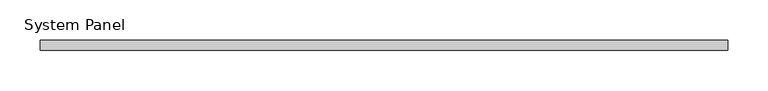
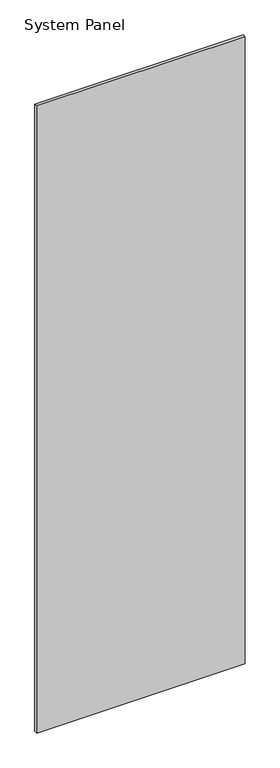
"""IFC4 building model written with IfcOpenShell, lengths in millimetres: plate geometry, System Panel : CR-BARANDA."""

from ifc_helpers import new_model, si_unit, origin, origin_with_axes, place, context, project, spatial, polyline, outline, extrude, source, transform, mapped, element, save


def system_panel_f2b8ddce(model_context):
    return source(origin(), model_context, "Body", "SweptSolid", [
        extrude(outline(polyline([(428.0081816, -6.25), (-428.0081816, -6.25), (-428.0081816, 6.25), (428.0081816, 6.25), (428.0081816, -6.25)])), origin_with_axes(), (0.0, 0.0, 1.0), 2720.0),
    ])


if __name__ == "__main__":
    model = new_model("IFC4")
    model_context = context("Model", 3, world=origin())
    ifc_project = project(units=[si_unit("LENGTHUNIT", "METRE", prefix="MILLI")], contexts=[model_context])
    site = spatial("IfcSite", under=ifc_project)
    building = spatial("IfcBuilding", under=site)
    placement = place(None, origin())
    system_panel_shape = system_panel_f2b8ddce(model_context)
    element("IfcPlate", 1, ObjectType="System Panel : CR-BARANDA", at=placement, inside=building, context=model_context, shape_type="MappedRepresentation", body=[
        mapped(system_panel_shape, transform((0.0, 0.0, 0.0), x_axis=(1.0, 0.0, 0.0), y_axis=(0.0, 1.0, 0.0), z_axis=(0.0, 0.0, 1.0))),
    ])
    save(model, "model.ifc")
